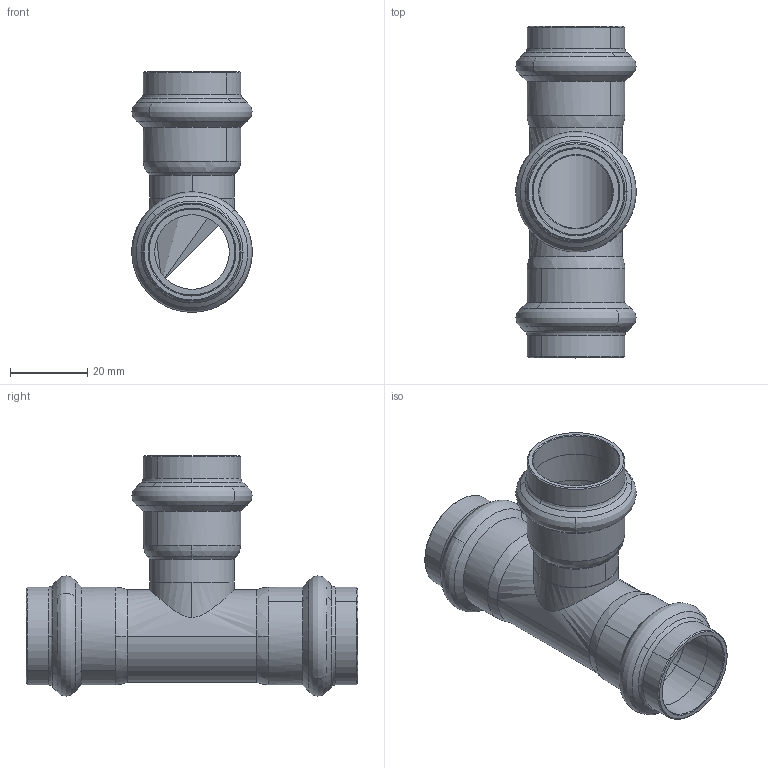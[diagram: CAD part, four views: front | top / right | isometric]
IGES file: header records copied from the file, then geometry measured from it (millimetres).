
Start section: Elysium IGES Interface
Global section: file name: C:\Users\Wallenburg\Desktop\3d modellen sudo\S-Pr VP\SP6130V\6130VW22.igs; native system: CoCreate Modeling 17.00A  17-Jun-2010; preprocessor: CoCreate IGES_3D V2.2; author: Unknown; organization: Unknown; date: 20130117.104455; units: millimetre
Bounding box: 31.19 x 86.01 x 62.31 mm (x, y, z)
Surface area: 19082.9 mm2 (no closed solid volume)
Topology: 0 solids, 1 shells, 128 faces, 319 edges, 199 vertices
Faces by surface type: bspline 128
